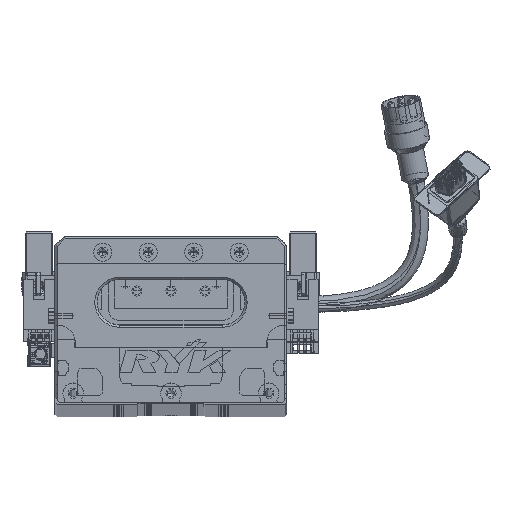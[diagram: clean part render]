
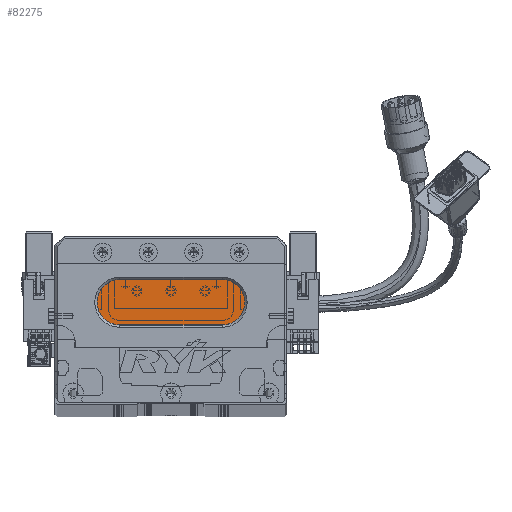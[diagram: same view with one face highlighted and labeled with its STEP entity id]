
A CAD part, top view. The second image highlights one B-rep face of the part: STEP entity #82275.
In plain terms, the highlighted planar face has unit normal (0, 0, 1) as drawn and (0, 0, -1) by its records, which use the part's own axes.
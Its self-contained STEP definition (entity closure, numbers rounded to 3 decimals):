
#691 = DIRECTION ( 'NONE',  ( 0., 0., -1. ) ) ;
#4844 = VERTEX_POINT ( 'NONE', #5177 ) ;
#5177 = CARTESIAN_POINT ( 'NONE',  ( 28.5, 34., 13. ) ) ;
#6272 = EDGE_CURVE ( 'NONE', #20032, #16764, #8454, .T. ) ;
#6459 = DIRECTION ( 'NONE',  ( 0., 0., -1. ) ) ;
#6987 = CARTESIAN_POINT ( 'NONE',  ( 73.5, 44., 13. ) ) ;
#8454 = LINE ( 'NONE', #42744, #65372 ) ;
#8509 = CARTESIAN_POINT ( 'NONE',  ( 73.5, 54., 13. ) ) ;
#11317 = ORIENTED_EDGE ( 'NONE', *, *, #22791, .T. ) ;
#15169 = EDGE_LOOP ( 'NONE', ( #28188, #54609, #11317, #77181, #51257 ) ) ;
#16764 = VERTEX_POINT ( 'NONE', #8509 ) ;
#18008 = VECTOR ( 'NONE', #67436, 1000. ) ;
#18302 = VERTEX_POINT ( 'NONE', #34511 ) ;
#20032 = VERTEX_POINT ( 'NONE', #39098 ) ;
#21604 = CIRCLE ( 'NONE', #31299, 10. ) ;
#22791 = EDGE_CURVE ( 'NONE', #4844, #18302, #21604, .T. ) ;
#25701 = EDGE_CURVE ( 'NONE', #18302, #20032, #71740, .T. ) ;
#25771 = DIRECTION ( 'NONE',  ( 0., 0., -1. ) ) ;
#28188 = ORIENTED_EDGE ( 'NONE', *, *, #30400, .T. ) ;
#30400 = EDGE_CURVE ( 'NONE', #16764, #36579, #32619, .T. ) ;
#31299 = AXIS2_PLACEMENT_3D ( 'NONE', #60427, #25771, #46395 ) ;
#32619 = CIRCLE ( 'NONE', #49750, 10. ) ;
#34511 = CARTESIAN_POINT ( 'NONE',  ( 18.5, 44., 13. ) ) ;
#34899 = DIRECTION ( 'NONE',  ( -1., 0., 0. ) ) ;
#36579 = VERTEX_POINT ( 'NONE', #49593 ) ;
#39098 = CARTESIAN_POINT ( 'NONE',  ( 28.5, 54., 13. ) ) ;
#39210 = AXIS2_PLACEMENT_3D ( 'NONE', #74300, #88940, #45962 ) ;
#42744 = CARTESIAN_POINT ( 'NONE',  ( 73.5, 54., 13. ) ) ;
#45962 = DIRECTION ( 'NONE',  ( -1., 0., 0. ) ) ;
#46395 = DIRECTION ( 'NONE',  ( -1., 0., 0. ) ) ;
#49593 = CARTESIAN_POINT ( 'NONE',  ( 73.5, 34., 13. ) ) ;
#49750 = AXIS2_PLACEMENT_3D ( 'NONE', #92468, #6459, #34899 ) ;
#49758 = PLANE ( 'NONE',  #50746 ) ;
#50633 = EDGE_CURVE ( 'NONE', #36579, #4844, #84988, .T. ) ;
#50746 = AXIS2_PLACEMENT_3D ( 'NONE', #6987, #691, #85562 ) ;
#51257 = ORIENTED_EDGE ( 'NONE', *, *, #6272, .T. ) ;
#54609 = ORIENTED_EDGE ( 'NONE', *, *, #50633, .T. ) ;
#60279 = CARTESIAN_POINT ( 'NONE',  ( 73.5, 34., 13. ) ) ;
#60427 = CARTESIAN_POINT ( 'NONE',  ( 28.5, 44., 13. ) ) ;
#65372 = VECTOR ( 'NONE', #77629, 1000. ) ;
#67436 = DIRECTION ( 'NONE',  ( -1., 0., 0. ) ) ;
#71740 = CIRCLE ( 'NONE', #39210, 10. ) ;
#74300 = CARTESIAN_POINT ( 'NONE',  ( 28.5, 44., 13. ) ) ;
#77181 = ORIENTED_EDGE ( 'NONE', *, *, #25701, .T. ) ;
#77629 = DIRECTION ( 'NONE',  ( 1., 0., 0. ) ) ;
#78904 = FACE_OUTER_BOUND ( 'NONE', #15169, .T. ) ;
#82275 = ADVANCED_FACE ( 'NONE', ( #78904 ), #49758, .T. ) ;
#84988 = LINE ( 'NONE', #60279, #18008 ) ;
#85562 = DIRECTION ( 'NONE',  ( -1., 0., 0. ) ) ;
#88940 = DIRECTION ( 'NONE',  ( 0., 0., -1. ) ) ;
#92468 = CARTESIAN_POINT ( 'NONE',  ( 73.5, 44., 13. ) ) ;
